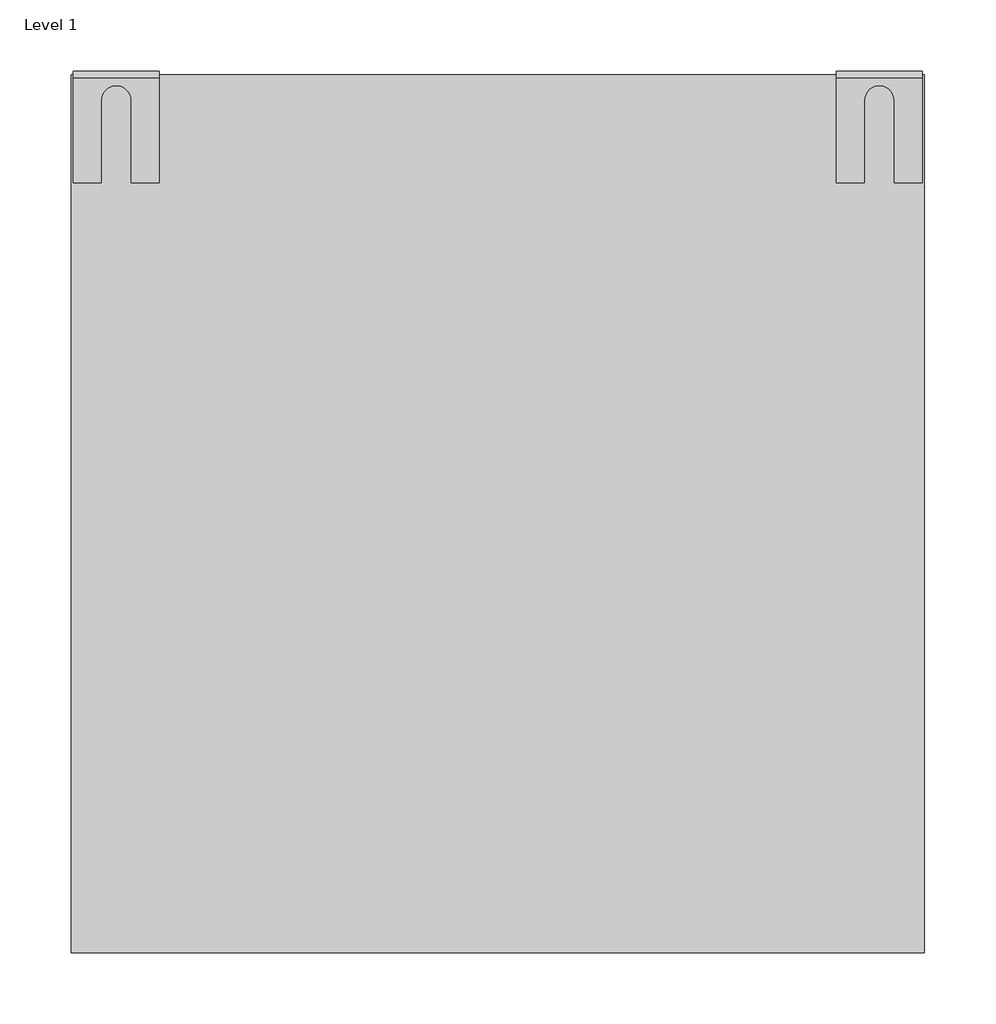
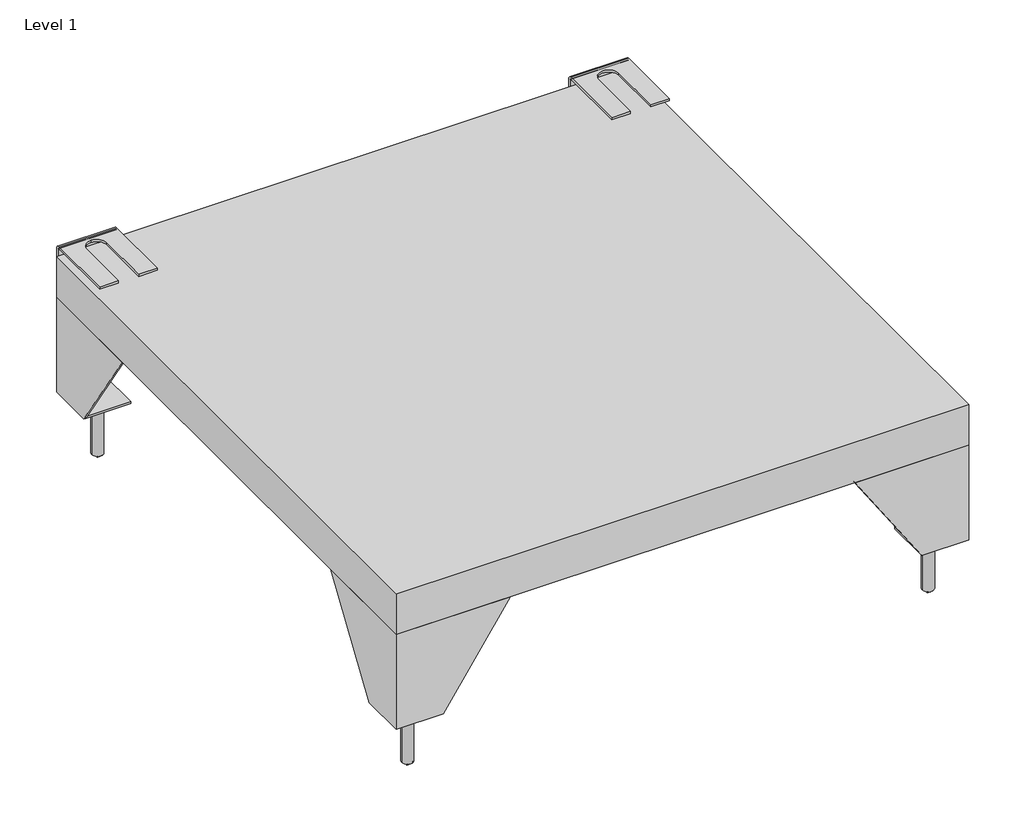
# One storey: 1 proxy.
"""IFC4 building model written with IfcOpenShell, lengths in millimetres."""

import ifcopenshell
import ifcopenshell.guid

model = None  # the IFC model being written
_history = None  # IfcOwnerHistory: only IFC2X3 demands one
_inside = {}  # id of a spatial element -> (the spatial element, [elements in it])
_under = {}  # id of a project, library or spatial element -> (it, [spatial elements below it])
_declared = {}  # id of a project -> (the project, [libraries it declares])
_typed = {}  # id of a type object -> (the type object, [elements of that type])
_made_of = {}  # id of a material, layer set ... -> (it, [elements and type objects made of it])


def new_model(schema):
    """Start an empty IFC model of exactly this schema.

    Asked for "IFC4X3", IfcOpenShell would pick the latest addendum, in which some entities
    have other attributes; the version numbers below select the first issue.
    IFC2X3 requires an IfcOwnerHistory on every rooted entity: one is made here for all.
    """
    global model, _history
    if schema == "IFC4X3":
        model = ifcopenshell.file(schema_version=(4, 3, 0, 0))
    else:
        model = ifcopenshell.file(schema=schema)
    _inside.clear()
    _under.clear()
    _declared.clear()
    _typed.clear()
    _made_of.clear()
    _history = None
    if model.schema == "IFC2X3":
        org = make("IfcOrganization", Name="unknown")
        user = make(
            "IfcPersonAndOrganization",
            ThePerson=make("IfcPerson", FamilyName="unknown"),
            TheOrganization=org,
        )
        app = make(
            "IfcApplication",
            ApplicationDeveloper=org,
            Version="unknown",
            ApplicationFullName="unknown",
            ApplicationIdentifier="unknown",
        )
        _history = make(
            "IfcOwnerHistory",
            OwningUser=user,
            OwningApplication=app,
            ChangeAction="ADDED",
            CreationDate=0,
        )
    return model


def make(cls, **values):
    """One entity of the class cls with the attributes given. An attribute that is None is left unset."""
    return model.create_entity(
        cls, **{name: value for name, value in values.items() if value is not None}
    )


def rooted(cls, **values):
    """An entity with a GlobalId (a new one), such as an element, a storey or a relation."""
    return make(cls, GlobalId=ifcopenshell.guid.new(), OwnerHistory=_history, **values)


def si_unit(unit_type, name, prefix=None):
    """IfcSIUnit, for example si_unit("LENGTHUNIT", "METRE", prefix="MILLI")."""
    return make("IfcSIUnit", UnitType=unit_type, Prefix=prefix, Name=name)


def assignment(units):
    """IfcUnitAssignment: the units of a project."""
    return None if units is None else make("IfcUnitAssignment", Units=units)


def point(xyz):
    """IfcCartesianPoint."""
    return None if xyz is None else make("IfcCartesianPoint", Coordinates=xyz)


def direction(xyz):
    """IfcDirection."""
    return None if xyz is None else make("IfcDirection", DirectionRatios=xyz)


def frame(location, z_axis=None, x_axis=None):
    """IfcAxis2Placement3D, a coordinate frame: its origin and axes. An axis left out is left unset."""
    return make(
        "IfcAxis2Placement3D",
        Location=point(location),
        Axis=direction(z_axis),
        RefDirection=direction(x_axis),
    )


def frame_2d(location, x_axis=None):
    """IfcAxis2Placement2D, a coordinate frame in the plane: its origin and x axis."""
    return make(
        "IfcAxis2Placement2D", Location=point(location), RefDirection=direction(x_axis)
    )


def origin():
    """The frame at (0, 0, 0) with its axes left unset."""
    return frame((0.0, 0.0, 0.0))


def origin_with_axes():
    """The frame at (0, 0, 0) with the z axis (0, 0, 1) and the x axis (1, 0, 0) written out."""
    return frame((0.0, 0.0, 0.0), z_axis=(0.0, 0.0, 1.0), x_axis=(1.0, 0.0, 0.0))


def place(relative_to, where):
    """IfcLocalPlacement: puts the frame where relative to a parent placement (None: the world)."""
    return make(
        "IfcLocalPlacement", PlacementRelTo=relative_to, RelativePlacement=where
    )


def context(
    kind, dimensions, precision=None, world=None, true_north=None, identifier=None
):
    """IfcGeometricRepresentationContext, for example the 3D "Model" context."""
    return make(
        "IfcGeometricRepresentationContext",
        ContextIdentifier=identifier,
        ContextType=kind,
        CoordinateSpaceDimension=dimensions,
        Precision=precision,
        WorldCoordinateSystem=world,
        TrueNorth=true_north,
    )


def project(units=None, contexts=None):
    """IfcProject with its units and contexts."""
    return rooted(
        "IfcProject",
        Name="project",
        RepresentationContexts=contexts,
        UnitsInContext=assignment(units),
    )


def spatial(cls, under=None, at=None, **own):
    """A site, building, storey or space (cls), placed at a placement, below another one or the project."""
    s = rooted(cls, ObjectPlacement=at, **own)
    if under is not None:
        _under.setdefault(under.id(), (under, []))[1].append(s)
    return s


def polyline(points):
    """IfcPolyline through the points."""
    return make("IfcPolyline", Points=[point(p) for p in points])


def circle_curve(where, radius):
    """IfcCircle in the frame where."""
    return make("IfcCircle", Position=where, Radius=radius)


def trimmed(basis, trim1, trim2, sense, master):
    """IfcTrimmedCurve: the piece of a basis curve between two trims."""
    return make(
        "IfcTrimmedCurve",
        BasisCurve=basis,
        Trim1=trim1,
        Trim2=trim2,
        SenseAgreement=sense,
        MasterRepresentation=master,
    )


def segment(curve, same_sense, transition):
    """IfcCompositeCurveSegment."""
    return make(
        "IfcCompositeCurveSegment",
        Transition=transition,
        SameSense=same_sense,
        ParentCurve=curve,
    )


def composite_curve(segments, self_intersect=None):
    """IfcCompositeCurve: segments joined end to end."""
    return make("IfcCompositeCurve", Segments=segments, SelfIntersect=self_intersect)


def outline(outer, holes=None, kind="AREA"):
    """IfcArbitraryClosedProfileDef: a profile drawn as a closed curve; with holes, ...WithVoids."""
    if holes is None:
        return make("IfcArbitraryClosedProfileDef", ProfileType=kind, OuterCurve=outer)
    return make(
        "IfcArbitraryProfileDefWithVoids",
        ProfileType=kind,
        OuterCurve=outer,
        InnerCurves=holes,
    )


def extrude(swept, where, along, depth):
    """IfcExtrudedAreaSolid: the profile swept, set in the frame where, extruded along a direction by depth."""
    return make(
        "IfcExtrudedAreaSolid",
        SweptArea=swept,
        Position=where,
        ExtrudedDirection=direction(along),
        Depth=depth,
    )


def faces_of(points, faces, orient=None, outer=None):
    """IfcFace entities. A face is a list of loops; a loop is a list of indices into points, from 0.

    orient and outer hold one flag for each loop. By default every Orientation is true, the
    first loop of a face is its IfcFaceOuterBound and the others are IfcFaceBound.
    """
    made = []
    for i, loops in enumerate(faces):
        bounds = []
        for j, loop in enumerate(loops):
            is_outer = j == 0 if outer is None else outer[i][j]
            bounds.append(
                make(
                    "IfcFaceOuterBound" if is_outer else "IfcFaceBound",
                    Bound=make("IfcPolyLoop", Polygon=[points[k] for k in loop]),
                    Orientation=True if orient is None else orient[i][j],
                )
            )
        made.append(make("IfcFace", Bounds=bounds))
    return made


def faceted_brep(points, faces, orient=None, outer=None, voids=None):
    """IfcFacetedBrep: a solid bounded by flat faces; with voids (closed shells), ...WithVoids."""
    shared = [point(p) for p in points]
    hull = make("IfcClosedShell", CfsFaces=faces_of(shared, faces, orient, outer))
    if voids is None:
        return make("IfcFacetedBrep", Outer=hull)
    return make(
        "IfcFacetedBrepWithVoids",
        Outer=hull,
        Voids=[
            make(cls, CfsFaces=faces_of(shared, fs, o, b)) for cls, fs, o, b in voids
        ],
    )


def shape(context_of_items, identifier, shape_type, items):
    """IfcShapeRepresentation: the items that make up one representation, for example the "Body"."""
    return make(
        "IfcShapeRepresentation",
        ContextOfItems=context_of_items,
        RepresentationIdentifier=identifier,
        RepresentationType=shape_type,
        Items=items,
    )


def source(mapping_origin, context_of_items, identifier, shape_type, items):
    """IfcRepresentationMap: a shape defined once, which mapped items show again and again."""
    return make(
        "IfcRepresentationMap",
        MappingOrigin=mapping_origin,
        MappedRepresentation=shape(context_of_items, identifier, shape_type, items),
    )


def transform(
    local_origin,
    x_axis=None,
    y_axis=None,
    z_axis=None,
    scale=None,
    scale2=None,
    scale3=None,
    uniform=True,
):
    """IfcCartesianTransformationOperator3D, or its non-uniform kind. x_axis, y_axis, z_axis: its Axis1, 2, 3."""
    if uniform:
        return make(
            "IfcCartesianTransformationOperator3D",
            Axis1=direction(x_axis),
            Axis2=direction(y_axis),
            LocalOrigin=point(local_origin),
            Scale=scale,
            Axis3=direction(z_axis),
        )
    return make(
        "IfcCartesianTransformationOperator3DnonUniform",
        Axis1=direction(x_axis),
        Axis2=direction(y_axis),
        LocalOrigin=point(local_origin),
        Scale=scale,
        Axis3=direction(z_axis),
        Scale2=scale2,
        Scale3=scale3,
    )


def mapped(mapping_source, mapping_target):
    """IfcMappedItem: shows the shape of a source again, moved by a transform."""
    return make(
        "IfcMappedItem", MappingSource=mapping_source, MappingTarget=mapping_target
    )


def made_of(thing, what):
    """Note that an element or type object is made of a material, layer set ...; save() writes the relation."""
    if what is not None:
        _made_of.setdefault(what.id(), (what, []))[1].append(thing)
    return thing


def element(
    cls,
    number,
    at=None,
    inside=None,
    cuts=None,
    type_object=None,
    material=None,
    context=None,
    identifier="Body",
    shape_type=None,
    held_by="IfcProductDefinitionShape",
    body=None,
    shapes=None,
    **own,
):
    """One element of the class cls, such as IfcWall. Its Tag is "e" and its number.

    at: its placement. inside: the storey or other place that contains it. cuts: it is an
    opening in that element (IfcRelVoidsElement). A single representation is given by context,
    identifier, shape_type and body (its items); several are given by shapes. held_by: the class
    of the entity that holds the representations. save() writes the other relations.
    """
    e = rooted(cls, Tag="e%d" % number, ObjectPlacement=at, **own)
    if body is not None:
        shapes = [shape(context, identifier, shape_type, body)]
    if shapes is not None:
        e.Representation = make(held_by, Representations=shapes)
    if inside is not None:
        _inside.setdefault(inside.id(), (inside, []))[1].append(e)
    if cuts is not None:
        rooted(
            "IfcRelVoidsElement", RelatingBuildingElement=cuts, RelatedOpeningElement=e
        )
    if type_object is not None:
        _typed.setdefault(type_object.id(), (type_object, []))[1].append(e)
    return made_of(e, material)


def aggregate(whole, parts):
    """IfcRelAggregates: a whole, such as a stair, and the parts it consists of."""
    return rooted("IfcRelAggregates", RelatingObject=whole, RelatedObjects=parts)


def save(model, path):
    """Write the relations noted so far, then the file.

    IfcRelAggregates (storeys below a building ...), IfcRelContainedInSpatialStructure (elements
    in a storey), IfcRelDefinesByType, IfcRelAssociatesMaterial and IfcRelDeclares: one each for
    every whole, place, type object, material and project.
    """
    for whole, parts in _under.values():
        aggregate(whole, parts)
    for where, things in _inside.values():
        rooted(
            "IfcRelContainedInSpatialStructure",
            RelatedElements=things,
            RelatingStructure=where,
        )
    for kind, things in _typed.values():
        rooted("IfcRelDefinesByType", RelatedObjects=things, RelatingType=kind)
    for what, things in _made_of.values():
        rooted("IfcRelAssociatesMaterial", RelatedObjects=things, RelatingMaterial=what)
    for by, libraries in _declared.values():
        rooted("IfcRelDeclares", RelatingContext=by, RelatedDefinitions=libraries)
    model.write(path)


def plane_surface(at):
    """IfcPlane: the flat surface through the origin of the frame at, square to its z axis."""
    return make("IfcPlane", Position=at)


def cylinder_surface(at, radius):
    """IfcCylindricalSurface: all points at the distance radius from the z axis of the frame at."""
    return make("IfcCylindricalSurface", Position=at, Radius=radius)


def revolved_surface(curve, axis_point, axis_direction):
    """IfcSurfaceOfRevolution: the curve turned about the line through axis_point along axis_direction."""
    return make(
        "IfcSurfaceOfRevolution",
        SweptCurve=make("IfcArbitraryOpenProfileDef", ProfileType="CURVE", Curve=curve),
        AxisPosition=make("IfcAxis1Placement", Location=point(axis_point), Axis=direction(axis_direction)),
    )


def advanced_brep(points, edges, surfaces, faces):
    """IfcAdvancedBrep: a solid bounded by faces that lie on surfaces and meet in shared edges.

    An edge is (start, end): straight between two places in points (the first is 0);
    or (start, end, curve); or (start, end, curve, False) where it runs against its curve.
    A face is (place in surfaces, loops), or (place, loops, False) where it looks against
    its surface's normal. A loop lists edges by number (the first is 1), with a minus sign
    where the edge is run from its end to its start. The first loop is the outer one.
    """
    corners = [point(p) for p in points]
    vertices = [make("IfcVertexPoint", VertexGeometry=c) for c in corners]
    made = []
    for start, end, *more in edges:
        made.append(
            make(
                "IfcEdgeCurve",
                EdgeStart=vertices[start],
                EdgeEnd=vertices[end],
                EdgeGeometry=more[0] if more else make("IfcPolyline", Points=[corners[start], corners[end]]),
                SameSense=more[1] if len(more) > 1 else True,
            )
        )
    hull = []
    for where, loops, *sense in faces:
        bounds = []
        for j, loop in enumerate(loops):
            ring = [make("IfcOrientedEdge", EdgeElement=made[abs(k) - 1], Orientation=k > 0) for k in loop]
            bounds.append(
                make(
                    "IfcFaceOuterBound" if j == 0 else "IfcFaceBound",
                    Bound=make("IfcEdgeLoop", EdgeList=ring),
                    Orientation=True,
                )
            )
        hull.append(make("IfcAdvancedFace", Bounds=bounds, FaceSurface=surfaces[where], SameSense=sense[0] if sense else True))
    return make("IfcAdvancedBrep", Outer=make("IfcClosedShell", CfsFaces=hull))


def specialty_equipment_ce1671d5(model_context):
    return source(origin(), model_context, "Body", "SolidModel", [
        extrude(outline(composite_curve([segment(polyline([(-275.1685084, 593.0472117), (-271.3164745, 593.0472117), (-269.4477356, 592.7512326)]), True, "CONTINUOUS"), segment(trimmed(circle_curve(frame_2d((-270.4186229, 590.5839462)), 2.3748163), [point((-269.4477356, 592.7512326))], [point((-269.2989184, 588.4896648))], False, "CARTESIAN"), True, "CONTINUOUS"), segment(trimmed(circle_curve(frame_2d((-270.4582963, 585.9114122)), 2.8269318), [point((-269.2989184, 588.4896648))], [point((-269.7642408, 583.1710052))], False, "CARTESIAN"), True, "CONTINUOUS"), segment(polyline([(-269.7642408, 583.1710052), (-271.2676416, 583.0), (-275.1685084, 583.0), (-275.1685084, 593.0472117)]), True, "CONTINUOUS")], self_intersect=False), holes=[composite_curve([segment(polyline([(-273.913848, 591.7943432), (-273.913848, 588.9670675), (-271.6145851, 588.9670675), (-270.2782884, 589.0839783)]), True, "CONTINUOUS"), segment(trimmed(circle_curve(frame_2d((-270.5352206, 590.3816276)), 1.3228409), [point((-270.2782884, 589.0839783))], [point((-270.1776634, 591.6552291))], True, "CARTESIAN"), True, "CONTINUOUS"), segment(polyline([(-270.1776634, 591.6552291), (-271.7677441, 591.7943432), (-273.913848, 591.7943432)]), True, "CONTINUOUS")], self_intersect=False), composite_curve([segment(polyline([(-271.4580113, 587.7090207), (-273.9143742, 587.7090207), (-273.9143742, 584.2568535), (-271.3578582, 584.2568535), (-270.4244031, 584.3057738)]), True, "CONTINUOUS"), segment(trimmed(circle_curve(frame_2d((-270.5121799, 585.980655)), 1.6771797), [point((-270.4244031, 584.3057738))], [point((-269.9111324, 587.5464372))], True, "CARTESIAN"), True, "CONTINUOUS"), segment(polyline([(-269.9111324, 587.5464372), (-271.4580113, 587.7090207)]), True, "CONTINUOUS")], self_intersect=False)]), frame((0.0, 0.0, -61.0), z_axis=(0.0, 0.0, 1.0), x_axis=(1.0, 0.0, 0.0)), (0.0, 0.0, 1.0), 1.0),
        extrude(outline(composite_curve([segment(polyline([(272.1415369, 32.0472117), (274.0102757, 31.7512326)]), True, "CONTINUOUS"), segment(trimmed(circle_curve(frame_2d((273.0393885, 29.5839462)), 2.3748163), [point((274.0102757, 31.7512326))], [point((274.1590929, 27.4896648))], False, "CARTESIAN"), True, "CONTINUOUS"), segment(trimmed(circle_curve(frame_2d((272.999715, 24.9114122)), 2.8269318), [point((274.1590929, 27.4896648))], [point((273.6937705, 22.1710052))], False, "CARTESIAN"), True, "CONTINUOUS"), segment(polyline([(273.6937705, 22.1710052), (272.1903698, 22.0), (268.2895029, 22.0), (268.2895029, 32.0472117), (272.1415369, 32.0472117)]), True, "CONTINUOUS")], self_intersect=False), holes=[composite_curve([segment(polyline([(269.5441634, 27.9670675), (271.8434263, 27.9670675), (273.1797229, 28.0839783)]), True, "CONTINUOUS"), segment(trimmed(circle_curve(frame_2d((272.9227908, 29.3816276)), 1.3228409), [point((273.1797229, 28.0839783))], [point((273.2803479, 30.6552291))], True, "CARTESIAN"), True, "CONTINUOUS"), segment(polyline([(273.2803479, 30.6552291), (271.6902672, 30.7943432), (269.5441634, 30.7943432), (269.5441634, 27.9670675)]), True, "CONTINUOUS")], self_intersect=False), composite_curve([segment(polyline([(269.5436371, 26.7090207), (269.5436371, 23.2568535), (272.1001532, 23.2568535), (273.0336083, 23.3057738)]), True, "CONTINUOUS"), segment(trimmed(circle_curve(frame_2d((272.9458315, 24.980655)), 1.6771797), [point((273.0336083, 23.3057738))], [point((273.5468789, 26.5464372))], True, "CARTESIAN"), True, "CONTINUOUS"), segment(polyline([(273.5468789, 26.5464372), (272.0, 26.7090207), (269.5436371, 26.7090207)]), True, "CONTINUOUS")], self_intersect=False)]), frame((0.0, 0.0, -61.0), z_axis=(0.0, 0.0, 1.0), x_axis=(1.0, 0.0, 0.0)), (0.0, 0.0, 1.0), 1.0),
        extrude(outline(composite_curve([segment(polyline([(272.1415369, 593.0472117), (274.0102757, 592.7512326)]), True, "CONTINUOUS"), segment(trimmed(circle_curve(frame_2d((273.0393885, 590.5839462)), 2.3748163), [point((274.0102757, 592.7512326))], [point((274.1590929, 588.4896648))], False, "CARTESIAN"), True, "CONTINUOUS"), segment(trimmed(circle_curve(frame_2d((272.999715, 585.9114122)), 2.8269318), [point((274.1590929, 588.4896648))], [point((273.6937705, 583.1710052))], False, "CARTESIAN"), True, "CONTINUOUS"), segment(polyline([(273.6937705, 583.1710052), (272.1903698, 583.0), (268.2895029, 583.0), (268.2895029, 593.0472117), (272.1415369, 593.0472117)]), True, "CONTINUOUS")], self_intersect=False), holes=[composite_curve([segment(polyline([(273.2803479, 591.6552291), (271.6902672, 591.7943432), (269.5441634, 591.7943432), (269.5441634, 588.9670675), (271.8434263, 588.9670675), (273.1797229, 589.0839783)]), True, "CONTINUOUS"), segment(trimmed(circle_curve(frame_2d((272.9227908, 590.3816276)), 1.3228409), [point((273.1797229, 589.0839783))], [point((273.2803479, 591.6552291))], True, "CARTESIAN"), True, "CONTINUOUS")], self_intersect=False), composite_curve([segment(polyline([(272.0, 587.7090207), (269.5436371, 587.7090207), (269.5436371, 584.2568535), (272.1001532, 584.2568535), (273.0336083, 584.3057738)]), True, "CONTINUOUS"), segment(trimmed(circle_curve(frame_2d((272.9458315, 585.980655)), 1.6771797), [point((273.0336083, 584.3057738))], [point((273.5468789, 587.5464372))], True, "CARTESIAN"), True, "CONTINUOUS"), segment(polyline([(273.5468789, 587.5464372), (272.0, 587.7090207)]), True, "CONTINUOUS")], self_intersect=False)]), frame((0.0, 0.0, -61.0), z_axis=(0.0, 0.0, 1.0), x_axis=(1.0, 0.0, 0.0)), (0.0, 0.0, 1.0), 1.0),
        extrude(outline(composite_curve([segment(polyline([(-271.4419527, 32.0472117), (-269.5732138, 31.7512326)]), True, "CONTINUOUS"), segment(trimmed(circle_curve(frame_2d((-270.544101, 29.5839462)), 2.3748163), [point((-269.5732138, 31.7512326))], [point((-269.4243966, 27.4896648))], False, "CARTESIAN"), True, "CONTINUOUS"), segment(trimmed(circle_curve(frame_2d((-270.5837745, 24.9114122)), 2.8269318), [point((-269.4243966, 27.4896648))], [point((-269.889719, 22.1710052))], False, "CARTESIAN"), True, "CONTINUOUS"), segment(polyline([(-269.889719, 22.1710052), (-271.3931197, 22.0), (-275.2939866, 22.0), (-275.2939866, 32.0472117), (-271.4419527, 32.0472117)]), True, "CONTINUOUS")], self_intersect=False), holes=[composite_curve([segment(polyline([(-274.0393261, 30.7943432), (-274.0393261, 27.9670675), (-271.7400632, 27.9670675), (-270.4037666, 28.0839783)]), True, "CONTINUOUS"), segment(trimmed(circle_curve(frame_2d((-270.6606988, 29.3816276)), 1.3228409), [point((-270.4037666, 28.0839783))], [point((-270.3031416, 30.6552291))], True, "CARTESIAN"), True, "CONTINUOUS"), segment(polyline([(-270.3031416, 30.6552291), (-271.8932223, 30.7943432), (-274.0393261, 30.7943432)]), True, "CONTINUOUS")], self_intersect=False), composite_curve([segment(polyline([(-274.0398524, 23.2568535), (-271.4833364, 23.2568535), (-270.5498812, 23.3057738)]), True, "CONTINUOUS"), segment(trimmed(circle_curve(frame_2d((-270.637658, 24.980655)), 1.6771797), [point((-270.5498812, 23.3057738))], [point((-270.0366106, 26.5464372))], True, "CARTESIAN"), True, "CONTINUOUS"), segment(polyline([(-270.0366106, 26.5464372), (-271.5834895, 26.7090207), (-274.0398524, 26.7090207), (-274.0398524, 23.2568535)]), True, "CONTINUOUS")], self_intersect=False)]), frame((0.0, 0.0, -61.0), z_axis=(0.0, 0.0, 1.0), x_axis=(1.0, 0.0, 0.0)), (0.0, 0.0, 1.0), 1.0),
        faceted_brep([(299.0, 615.0, 150.0), (-299.0, 615.0, 150.0), (-299.0, 0.0, 150.0), (299.0, 0.0, 150.0), (299.0, 615.0, 105.0), (299.0, 0.0, 105.0), (-299.0, 0.0, 105.0), (-299.0, 615.0, 105.0), (297.0, 613.0, 105.0), (-297.0, 613.0, 105.0), (-297.0, 2.0, 105.0), (297.0, 2.0, 105.0), (297.0, 613.0, 149.0), (297.0, 2.0, 149.0), (-297.0, 2.0, 149.0), (-297.0, 613.0, 149.0)], [[[0, 1, 2, 3]], [[4, 5, 6, 7], [8, 9, 10, 11]], [[1, 0, 4, 7]], [[2, 1, 7, 6]], [[3, 2, 6, 5]], [[0, 3, 5, 4]], [[12, 13, 14, 15]], [[12, 15, 9, 8]], [[15, 14, 10, 9]], [[14, 13, 11, 10]], [[13, 12, 8, 11]]]),
        advanced_brep(
        [(297.5, 612.5, 161.5), (297.5, 539.5, 161.5), (297.5, 539.5, 159.0), (297.5, 612.5, 159.0), (297.5, 615.0, 156.5), (297.5, 615.0, 79.0), (297.5, 617.5, 79.0), (297.5, 617.5, 156.5), (237.5, 612.5, 161.5), (237.5, 617.5, 156.5), (237.5, 617.5, 79.0), (237.5, 615.0, 79.0), (237.5, 615.0, 156.5), (237.5, 612.5, 159.0), (237.5, 539.5, 159.0), (237.5, 539.5, 161.5), (257.0, 539.5, 161.5), (257.0, 597.0, 161.5), (278.0, 597.0, 161.5), (278.0, 539.5, 161.5), (278.0, 539.5, 159.0), (257.0, 539.5, 159.0), (278.0, 597.0, 159.0), (257.0, 597.0, 159.0), (267.5, 615.0, 137.5), (267.5, 615.0, 130.5), (267.5, 615.0, 95.5), (267.5, 615.0, 88.5), (255.0, 615.0, 127.0), (280.0, 615.0, 127.0), (280.0, 615.0, 102.0), (255.0, 615.0, 102.0), (267.5, 617.5, 130.5), (267.5, 617.5, 137.5), (267.5, 617.5, 88.5), (267.5, 617.5, 95.5), (280.0, 617.5, 127.0), (255.0, 617.5, 127.0), (255.0, 617.5, 102.0), (280.0, 617.5, 102.0)],
        [
            (0, 1),
            (1, 2),
            (2, 3),
            (3, 4, circle_curve(frame((297.5, 612.5, 156.5), z_axis=(-1.0, 0.0, 0.0), x_axis=(0.0, 1.0, 0.0)), 2.5)),
            (4, 5),
            (5, 6),
            (6, 7),
            (7, 0, circle_curve(frame((297.5, 612.5, 156.5), z_axis=(1.0, 0.0, 0.0), x_axis=(0.0, 1.0, 0.0)), 5.0)),
            (8, 9, circle_curve(frame((237.5, 612.5, 156.5), z_axis=(-1.0, 0.0, 0.0), x_axis=(0.0, 1.0, 0.0)), 5.0)),
            (9, 10),
            (10, 11),
            (11, 12),
            (12, 13, circle_curve(frame((237.5, 612.5, 156.5), z_axis=(1.0, 0.0, 0.0), x_axis=(0.0, 1.0, 0.0)), 2.5)),
            (13, 14),
            (14, 15),
            (15, 8),
            (0, 8),
            (15, 16),
            (16, 17),
            (17, 18, circle_curve(frame((267.5, 597.0, 161.5), z_axis=(0.0, 0.0, -1.0), x_axis=(0.0, 1.0, 0.0)), 10.5)),
            (18, 19),
            (19, 1),
            (19, 20),
            (20, 2),
            (14, 21),
            (21, 16),
            (20, 22),
            (22, 23, circle_curve(frame((267.5, 597.0, 159.0), z_axis=(0.0, 0.0, 1.0), x_axis=(0.0, 1.0, 0.0)), 10.5)),
            (23, 21),
            (13, 3),
            (4, 12),
            (11, 5),
            (24, 25, circle_curve(frame((267.5, 615.0, 134.0), z_axis=(0.0, 1.0, 0.0), x_axis=(0.0, 0.0, -1.0)), 3.5)),
            (25, 24, circle_curve(frame((267.5, 615.0, 134.0), z_axis=(0.0, 1.0, 0.0), x_axis=(0.0, 0.0, -1.0)), 3.5)),
            (26, 27, circle_curve(frame((267.5, 615.0, 92.0), z_axis=(0.0, 1.0, 0.0), x_axis=(0.0, 0.0, -1.0)), 3.5)),
            (27, 26, circle_curve(frame((267.5, 615.0, 92.0), z_axis=(0.0, 1.0, 0.0), x_axis=(0.0, 0.0, -1.0)), 3.5)),
            (28, 29),
            (29, 30),
            (30, 31),
            (31, 28),
            (10, 6),
            (9, 7),
            (32, 33, circle_curve(frame((267.5, 617.5, 134.0), z_axis=(0.0, -1.0, 0.0), x_axis=(0.0, 0.0, -1.0)), 3.5)),
            (33, 32, circle_curve(frame((267.5, 617.5, 134.0), z_axis=(0.0, -1.0, 0.0), x_axis=(0.0, 0.0, -1.0)), 3.5)),
            (34, 35, circle_curve(frame((267.5, 617.5, 92.0), z_axis=(0.0, -1.0, 0.0), x_axis=(0.0, 0.0, -1.0)), 3.5)),
            (35, 34, circle_curve(frame((267.5, 617.5, 92.0), z_axis=(0.0, -1.0, 0.0), x_axis=(0.0, 0.0, -1.0)), 3.5)),
            (36, 37),
            (37, 38),
            (38, 39),
            (39, 36),
            (18, 22),
            (17, 23),
            (24, 33),
            (32, 25),
            (26, 35),
            (34, 27),
            (28, 37),
            (36, 29),
            (39, 30),
            (38, 31),
        ],
        [
            plane_surface(frame((297.5, 539.5, 161.5), z_axis=(1.0, 0.0, 0.0), x_axis=(0.0, -1.0, 0.0))),
            plane_surface(frame((237.5, 539.5, 161.5), z_axis=(-1.0, 0.0, 0.0), x_axis=(0.0, 1.0, 0.0))),
            plane_surface(frame((297.5, 612.5, 161.5), z_axis=(0.0, 0.0, 1.0), x_axis=(-1.0, 0.0, 0.0))),
            plane_surface(frame((297.5, 539.5, 161.5), z_axis=(0.0, -1.0, 0.0), x_axis=(-1.0, 0.0, 0.0))),
            plane_surface(frame((297.5, 539.5, 159.0), z_axis=(0.0, 0.0, -1.0), x_axis=(-1.0, 0.0, 0.0))),
            plane_surface(frame((297.5, 615.0, 156.5), z_axis=(0.0, -1.0, 0.0), x_axis=(-1.0, 0.0, 0.0))),
            plane_surface(frame((297.5, 615.0, 79.0), z_axis=(0.0, 0.0, -1.0), x_axis=(-1.0, 0.0, 0.0))),
            plane_surface(frame((297.5, 617.5, 79.0), z_axis=(0.0, 1.0, 0.0), x_axis=(-1.0, 0.0, 0.0))),
            plane_surface(frame((278.0, 539.5, 161.5), z_axis=(-1.0, 0.0, 0.0), x_axis=(0.0, 0.0, -1.0))),
            revolved_surface(polyline([(267.5, 607.5, 161.5), (267.5, 607.5, 159.0)]), (267.5, 597.0, 150.0), (0.0, 0.0, 1.0)),
            plane_surface(frame((257.0, 597.0, 161.5), z_axis=(1.0, 0.0, 0.0), x_axis=(0.0, 0.0, -1.0))),
            revolved_surface(polyline([(267.5, 617.5, 130.5), (267.5, 615.0, 130.5)]), (267.5, 609.795944, 134.0), (0.0, 1.0, 0.0)),
            revolved_surface(polyline([(267.5, 617.5, 88.5), (267.5, 615.0, 88.5)]), (267.5, 617.5, 92.0), (0.0, 1.0, 0.0)),
            plane_surface(frame((255.0, 617.5, 127.0), z_axis=(0.0, 0.0, -1.0), x_axis=(0.0, -1.0, 0.0))),
            plane_surface(frame((280.0, 617.5, 127.0), z_axis=(-1.0, 0.0, 0.0), x_axis=(0.0, -1.0, 0.0))),
            plane_surface(frame((280.0, 617.5, 102.0), z_axis=(0.0, 0.0, 1.0), x_axis=(0.0, -1.0, 0.0))),
            plane_surface(frame((255.0, 617.5, 102.0), z_axis=(1.0, 0.0, 0.0), x_axis=(0.0, -1.0, 0.0))),
            revolved_surface(polyline([(237.5, 615.0, 156.5), (297.5, 615.0, 156.5)]), (237.5, 612.5, 156.5), (-1.0, 0.0, 0.0)),
            cylinder_surface(frame((237.5, 612.5, 156.5), z_axis=(1.0, 0.0, 0.0), x_axis=(0.0, 1.0, 0.0)), 5.0),
        ],
        [
            (0, [[1, 2, 3, 4, 5, 6, 7, 8]]),
            (1, [[9, 10, 11, 12, 13, 14, 15, 16]]),
            (2, [[-1, 17, -16, 18, 19, 20, 21, 22]]),
            (3, [[-2, -22, 23, 24]]),
            (3, [[-15, 25, 26, -18]]),
            (4, [[-3, -24, 27, 28, 29, -25, -14, 30]]),
            (5, [[-5, 31, -12, 32], [33, 34], [35, 36], [37, 38, 39, 40]]),
            (6, [[-6, -32, -11, 41]]),
            (7, [[-7, -41, -10, 42], [43, 44], [45, 46], [47, 48, 49, 50]]),
            (8, [[51, -27, -23, -21]]),
            (9, [[-51, -20, 52, -28]]),
            (10, [[-52, -19, -26, -29]]),
            (11, [[53, -43, 54, -33]]),
            (11, [[-53, -34, -54, -44]]),
            (12, [[55, -45, 56, -35]]),
            (12, [[-55, -36, -56, -46]]),
            (13, [[57, -47, 58, -37]]),
            (14, [[-58, -50, 59, -38]]),
            (15, [[-59, -49, 60, -39]]),
            (16, [[-57, -40, -60, -48]]),
            (17, [[-4, -30, -13, -31]]),
            (18, [[-8, -42, -9, -17]]),
        ],
    ),
        advanced_brep(
        [(-237.5, 617.5, 156.5), (-237.5, 612.5, 161.5), (-237.5, 539.5, 161.5), (-237.5, 539.5, 159.0), (-237.5, 612.5, 159.0), (-237.5, 615.0, 156.5), (-237.5, 615.0, 79.0), (-237.5, 617.5, 79.0), (-297.5, 617.5, 156.5), (-297.5, 617.5, 79.0), (-297.5, 615.0, 79.0), (-297.5, 615.0, 156.5), (-297.5, 612.5, 159.0), (-297.5, 539.5, 159.0), (-297.5, 539.5, 161.5), (-297.5, 612.5, 161.5), (-278.0, 539.5, 161.5), (-278.0, 597.0, 161.5), (-267.5, 607.5, 161.5), (-257.0, 597.0, 161.5), (-257.0, 539.5, 161.5), (-257.0, 539.5, 159.0), (-278.0, 539.5, 159.0), (-257.0, 597.0, 159.0), (-267.5, 607.5, 159.0), (-278.0, 597.0, 159.0), (-255.0, 615.0, 127.0), (-255.0, 615.0, 102.0), (-280.0, 615.0, 102.0), (-280.0, 615.0, 127.0), (-267.5, 615.0, 95.5), (-267.5, 615.0, 88.5), (-267.5, 615.0, 137.5), (-267.5, 615.0, 130.5), (-255.0, 617.5, 102.0), (-255.0, 617.5, 127.0), (-280.0, 617.5, 127.0), (-280.0, 617.5, 102.0), (-267.5, 617.5, 88.5), (-267.5, 617.5, 95.5), (-267.5, 617.5, 130.5), (-267.5, 617.5, 137.5)],
        [
            (0, 1, circle_curve(frame((-237.5, 612.5, 156.5), z_axis=(1.0, 0.0, 0.0), x_axis=(0.0, 1.0, 0.0)), 5.0)),
            (1, 2),
            (2, 3),
            (3, 4),
            (4, 5, circle_curve(frame((-237.5, 612.5, 156.5), z_axis=(-1.0, 0.0, 0.0), x_axis=(0.0, 1.0, 0.0)), 2.5)),
            (5, 6),
            (6, 7),
            (7, 0),
            (8, 9),
            (9, 10),
            (10, 11),
            (11, 12, circle_curve(frame((-297.5, 612.5, 156.5), z_axis=(1.0, 0.0, 0.0), x_axis=(0.0, 1.0, 0.0)), 2.5)),
            (12, 13),
            (13, 14),
            (14, 15),
            (15, 8, circle_curve(frame((-297.5, 612.5, 156.5), z_axis=(-1.0, 0.0, 0.0), x_axis=(0.0, 1.0, 0.0)), 5.0)),
            (1, 15),
            (14, 16),
            (16, 17),
            (17, 18, circle_curve(frame((-267.5, 597.0, 161.5), z_axis=(0.0, 0.0, -1.0), x_axis=(0.0, -1.0, 0.0)), 10.5)),
            (18, 19, circle_curve(frame((-267.5, 597.0, 161.5), z_axis=(0.0, 0.0, -1.0), x_axis=(0.0, -1.0, 0.0)), 10.5)),
            (19, 20),
            (20, 2),
            (20, 21),
            (21, 3),
            (13, 22),
            (22, 16),
            (21, 23),
            (23, 24, circle_curve(frame((-267.5, 597.0, 159.0), z_axis=(0.0, 0.0, 1.0), x_axis=(0.0, -1.0, 0.0)), 10.5)),
            (24, 25, circle_curve(frame((-267.5, 597.0, 159.0), z_axis=(0.0, 0.0, 1.0), x_axis=(0.0, -1.0, 0.0)), 10.5)),
            (25, 22),
            (12, 4),
            (5, 11),
            (10, 6),
            (26, 27),
            (27, 28),
            (28, 29),
            (29, 26),
            (30, 31, circle_curve(frame((-267.5, 615.0, 92.0), z_axis=(0.0, 1.0, 0.0), x_axis=(0.0, 0.0, -1.0)), 3.5)),
            (31, 30, circle_curve(frame((-267.5, 615.0, 92.0), z_axis=(0.0, 1.0, 0.0), x_axis=(0.0, 0.0, -1.0)), 3.5)),
            (32, 33, circle_curve(frame((-267.5, 615.0, 134.0), z_axis=(0.0, 1.0, 0.0), x_axis=(0.0, 0.0, -1.0)), 3.5)),
            (33, 32, circle_curve(frame((-267.5, 615.0, 134.0), z_axis=(0.0, 1.0, 0.0), x_axis=(0.0, 0.0, -1.0)), 3.5)),
            (9, 7),
            (8, 0),
            (34, 35),
            (35, 36),
            (36, 37),
            (37, 34),
            (38, 39, circle_curve(frame((-267.5, 617.5, 92.0), z_axis=(0.0, -1.0, 0.0), x_axis=(0.0, 0.0, -1.0)), 3.5)),
            (39, 38, circle_curve(frame((-267.5, 617.5, 92.0), z_axis=(0.0, -1.0, 0.0), x_axis=(0.0, 0.0, -1.0)), 3.5)),
            (40, 41, circle_curve(frame((-267.5, 617.5, 134.0), z_axis=(0.0, -1.0, 0.0), x_axis=(0.0, 0.0, -1.0)), 3.5)),
            (41, 40, circle_curve(frame((-267.5, 617.5, 134.0), z_axis=(0.0, -1.0, 0.0), x_axis=(0.0, 0.0, -1.0)), 3.5)),
            (24, 18),
            (17, 25),
            (19, 23),
            (26, 35),
            (34, 27),
            (37, 28),
            (36, 29),
            (30, 39),
            (38, 31),
            (32, 41),
            (40, 33),
        ],
        [
            plane_surface(frame((-237.5, 617.5, 156.5), z_axis=(1.0, 0.0, 0.0), x_axis=(0.0, 0.0, 1.0))),
            plane_surface(frame((-297.5, 617.5, 156.5), z_axis=(-1.0, 0.0, 0.0), x_axis=(0.0, 0.0, -1.0))),
            plane_surface(frame((-237.5, 612.5, 161.5), z_axis=(0.0, 0.0, 1.0), x_axis=(-1.0, 0.0, 0.0))),
            plane_surface(frame((-237.5, 539.5, 161.5), z_axis=(0.0, -1.0, 0.0), x_axis=(-1.0, 0.0, 0.0))),
            plane_surface(frame((-237.5, 539.5, 159.0), z_axis=(0.0, 0.0, -1.0), x_axis=(-1.0, 0.0, 0.0))),
            plane_surface(frame((-237.5, 615.0, 156.5), z_axis=(0.0, -1.0, 0.0), x_axis=(-1.0, 0.0, 0.0))),
            plane_surface(frame((-237.5, 615.0, 79.0), z_axis=(0.0, 0.0, -1.0), x_axis=(-1.0, 0.0, 0.0))),
            plane_surface(frame((-237.5, 617.5, 79.0), z_axis=(0.0, 1.0, 0.0), x_axis=(-1.0, 0.0, 0.0))),
            revolved_surface(polyline([(-267.5, 586.5, 161.5), (-267.5, 586.5, 159.0)]), (-267.5, 597.0, 150.0), (0.0, 0.0, 1.0)),
            plane_surface(frame((-278.0, 597.0, 161.5), z_axis=(1.0, 0.0, 0.0), x_axis=(0.0, 0.0, -1.0))),
            plane_surface(frame((-257.0, 539.5, 161.5), z_axis=(-1.0, 0.0, 0.0), x_axis=(0.0, 0.0, -1.0))),
            cylinder_surface(frame((-297.5, 612.5, 156.5), z_axis=(1.0, 0.0, 0.0), x_axis=(0.0, 1.0, 0.0)), 5.0),
            revolved_surface(polyline([(-297.5, 615.0, 156.5), (-237.5, 615.0, 156.5)]), (-297.5, 612.5, 156.5), (-1.0, 0.0, 0.0)),
            plane_surface(frame((-255.0, 617.5, 127.0), z_axis=(-1.0, 0.0, 0.0), x_axis=(0.0, -1.0, 0.0))),
            plane_surface(frame((-255.0, 617.5, 102.0), z_axis=(0.0, 0.0, 1.0), x_axis=(0.0, -1.0, 0.0))),
            plane_surface(frame((-280.0, 617.5, 102.0), z_axis=(1.0, 0.0, 0.0), x_axis=(0.0, -1.0, 0.0))),
            plane_surface(frame((-280.0, 617.5, 127.0), z_axis=(0.0, 0.0, -1.0), x_axis=(0.0, -1.0, 0.0))),
            revolved_surface(polyline([(-267.5, 617.5, 88.5), (-267.5, 615.0, 88.5)]), (-267.5, 617.5, 92.0), (0.0, 1.0, 0.0)),
            revolved_surface(polyline([(-267.5, 617.5, 130.5), (-267.5, 615.0, 130.5)]), (-267.5, 617.5, 134.0), (0.0, 1.0, 0.0)),
        ],
        [
            (0, [[1, 2, 3, 4, 5, 6, 7, 8]]),
            (1, [[9, 10, 11, 12, 13, 14, 15, 16]]),
            (2, [[-2, 17, -15, 18, 19, 20, 21, 22, 23]]),
            (3, [[-3, -23, 24, 25]]),
            (3, [[-14, 26, 27, -18]]),
            (4, [[-4, -25, 28, 29, 30, 31, -26, -13, 32]]),
            (5, [[-6, 33, -11, 34], [35, 36, 37, 38], [39, 40], [41, 42]]),
            (6, [[-7, -34, -10, 43]]),
            (7, [[-8, -43, -9, 44], [45, 46, 47, 48], [49, 50], [51, 52]]),
            (8, [[53, -20, 54, -30]]),
            (9, [[-54, -19, -27, -31]]),
            (10, [[55, -28, -24, -22]]),
            (8, [[-53, -29, -55, -21]]),
            (11, [[-1, -44, -16, -17]]),
            (12, [[-5, -32, -12, -33]]),
            (13, [[56, -45, 57, -35]]),
            (14, [[-57, -48, 58, -36]]),
            (15, [[-58, -47, 59, -37]]),
            (16, [[-56, -38, -59, -46]]),
            (17, [[60, -49, 61, -39]]),
            (17, [[-60, -40, -61, -50]]),
            (18, [[62, -51, 63, -41]]),
            (18, [[-62, -42, -63, -52]]),
        ],
    ),
        extrude(outline(composite_curve([segment(trimmed(circle_curve(frame_2d((-272.0, 588.0)), 6.0), [point((-266.0, 588.0))], [point((-278.0, 588.0))], False, "CARTESIAN"), True, "CONTINUOUS"), segment(trimmed(circle_curve(frame_2d((-272.0, 588.0)), 6.0), [point((-278.0, 588.0))], [point((-266.0, 588.0))], False, "CARTESIAN"), True, "CONTINUOUS")], self_intersect=False)), frame((0.0, 0.0, -60.0), z_axis=(0.0, 0.0, 1.0), x_axis=(1.0, 0.0, 0.0)), (0.0, 0.0, 1.0), 60.0),
        extrude(outline(composite_curve([segment(trimmed(circle_curve(frame_2d((-272.0, 27.0)), 6.0), [point((-266.0, 27.0))], [point((-278.0, 27.0))], False, "CARTESIAN"), True, "CONTINUOUS"), segment(trimmed(circle_curve(frame_2d((-272.0, 27.0)), 6.0), [point((-278.0, 27.0))], [point((-266.0, 27.0))], False, "CARTESIAN"), True, "CONTINUOUS")], self_intersect=False)), frame((0.0, 0.0, -60.0), z_axis=(0.0, 0.0, 1.0), x_axis=(1.0, 0.0, 0.0)), (0.0, 0.0, 1.0), 60.0),
        extrude(outline(composite_curve([segment(trimmed(circle_curve(frame_2d((272.0, 27.0)), 6.0), [point((278.0, 27.0))], [point((266.0, 27.0))], False, "CARTESIAN"), True, "CONTINUOUS"), segment(trimmed(circle_curve(frame_2d((272.0, 27.0)), 6.0), [point((266.0, 27.0))], [point((278.0, 27.0))], False, "CARTESIAN"), True, "CONTINUOUS")], self_intersect=False)), frame((0.0, 0.0, -60.0), z_axis=(0.0, 0.0, 1.0), x_axis=(1.0, 0.0, 0.0)), (0.0, 0.0, 1.0), 60.0),
        extrude(outline(composite_curve([segment(trimmed(circle_curve(frame_2d((272.0, 588.0)), 6.0), [point((278.0, 588.0))], [point((266.0, 588.0))], False, "CARTESIAN"), True, "CONTINUOUS"), segment(trimmed(circle_curve(frame_2d((272.0, 588.0)), 6.0), [point((266.0, 588.0))], [point((278.0, 588.0))], False, "CARTESIAN"), True, "CONTINUOUS")], self_intersect=False)), frame((0.0, 0.0, -60.0), z_axis=(0.0, 0.0, 1.0), x_axis=(1.0, 0.0, 0.0)), (0.0, 0.0, 1.0), 60.0),
        extrude(outline(polyline([(-250.0, 613.0), (-250.0, 566.0), (-297.0, 566.0), (-297.0, 613.0), (-250.0, 613.0)])), origin_with_axes(), (0.0, 0.0, 1.0), 2.0),
        extrude(outline(polyline([(297.0, 613.0), (297.0, 566.0), (250.0, 566.0), (250.0, 613.0), (297.0, 613.0)])), origin_with_axes(), (0.0, 0.0, 1.0), 2.0),
        extrude(outline(polyline([(-250.0, 49.0), (-250.0, 2.0), (-297.0, 2.0), (-297.0, 49.0), (-250.0, 49.0)])), origin_with_axes(), (0.0, 0.0, 1.0), 2.0),
        extrude(outline(polyline([(297.0, 49.0), (297.0, 2.0), (250.0, 2.0), (250.0, 49.0), (297.0, 49.0)])), origin_with_axes(), (0.0, 0.0, 1.0), 2.0),
        faceted_brep([(180.0, 613.0, 105.0), (297.0, 613.0, 105.0), (297.0, 496.0, 105.0), (299.0, 496.0, 105.0), (299.0, 615.0, 105.0), (180.0, 615.0, 105.0), (250.0, 615.0, 0.0), (299.0, 615.0, 0.0), (299.0, 566.0, 0.0), (297.0, 566.0, 0.0), (297.0, 613.0, 0.0), (250.0, 613.0, 0.0)], [[[0, 1, 2, 3, 4, 5]], [[6, 7, 8, 9, 10, 11]], [[1, 0, 11, 10]], [[2, 1, 10, 9]], [[4, 3, 8, 7]], [[5, 4, 7, 6]], [[0, 5, 6, 11]], [[3, 2, 9, 8]]]),
        faceted_brep([(-297.0, 496.0, 105.0), (-297.0, 613.0, 105.0), (-180.0, 613.0, 105.0), (-180.0, 615.0, 105.0), (-299.0, 615.0, 105.0), (-299.0, 496.0, 105.0), (-299.0, 615.0, 0.0), (-250.0, 615.0, 0.0), (-250.0, 613.0, 0.0), (-297.0, 613.0, 0.0), (-297.0, 566.0, 0.0), (-299.0, 566.0, 0.0)], [[[0, 1, 2, 3, 4, 5]], [[6, 7, 8, 9, 10, 11]], [[1, 0, 10, 9]], [[2, 1, 9, 8]], [[4, 3, 7, 6]], [[5, 4, 6, 11]], [[3, 2, 8, 7]], [[0, 5, 11, 10]]]),
        faceted_brep([(-180.0, 2.0, 105.0), (-297.0, 2.0, 105.0), (-297.0, 119.0, 105.0), (-299.0, 119.0, 105.0), (-299.0, 0.0, 105.0), (-180.0, 0.0, 105.0), (-250.0, 0.0, 0.0), (-299.0, 0.0, 0.0), (-299.0, 49.0, 0.0), (-297.0, 49.0, 0.0), (-297.0, 2.0, 0.0), (-250.0, 2.0, 0.0)], [[[0, 1, 2, 3, 4, 5]], [[6, 7, 8, 9, 10, 11]], [[1, 0, 11, 10]], [[2, 1, 10, 9]], [[4, 3, 8, 7]], [[5, 4, 7, 6]], [[0, 5, 6, 11]], [[3, 2, 9, 8]]]),
        faceted_brep([(297.0, 119.0, 105.0), (297.0, 2.0, 105.0), (180.0, 2.0, 105.0), (180.0, 0.0, 105.0), (299.0, 0.0, 105.0), (299.0, 119.0, 105.0), (299.0, 0.0, 0.0), (250.0, 0.0, 0.0), (250.0, 2.0, 0.0), (297.0, 2.0, 0.0), (297.0, 49.0, 0.0), (299.0, 49.0, 0.0)], [[[0, 1, 2, 3, 4, 5]], [[6, 7, 8, 9, 10, 11]], [[1, 0, 10, 9]], [[2, 1, 9, 8]], [[4, 3, 7, 6]], [[5, 4, 6, 11]], [[3, 2, 8, 7]], [[0, 5, 11, 10]]]),
    ])


model = new_model("IFC4")

# Units and contexts
model_context = context("Model", 3, world=origin())
ifc_project = project(units=[si_unit("LENGTHUNIT", "METRE", prefix="MILLI")], contexts=[model_context])

# Site, building, storey
site = spatial("IfcSite", under=ifc_project)
building = spatial("IfcBuilding", under=site)
storey = spatial("IfcBuildingStorey", under=building, Name="Level 1", Elevation=0.0)

# Proxy
placement = place(None, origin())
specialty_equipment_shape = specialty_equipment_ce1671d5(model_context)
element("IfcBuildingElementProxy", 1, Name="11318740_D_APCL002_OB : 59590007_D_11318740_APCL002_OB", ObjectType="11318740_D_APCL002_OB : 59590007_D_11318740_APCL002_OB", at=placement, inside=storey, context=model_context, shape_type="MappedRepresentation", body=[
    mapped(specialty_equipment_shape, transform((0.0, 0.0, 0.0), x_axis=(1.0, 0.0, 0.0), y_axis=(0.0, 1.0, 0.0), z_axis=(0.0, 0.0, 1.0))),
])

save(model, "model.ifc")
